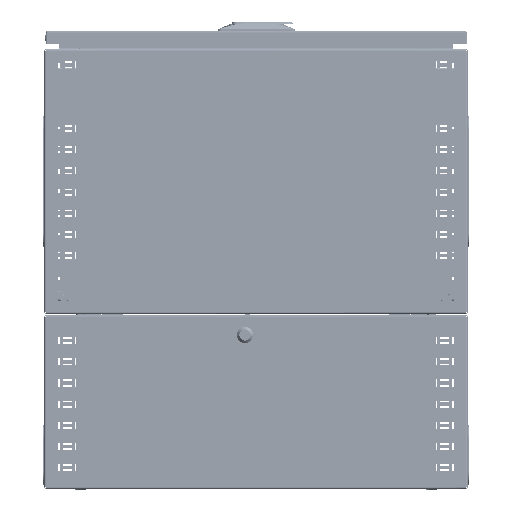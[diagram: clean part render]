
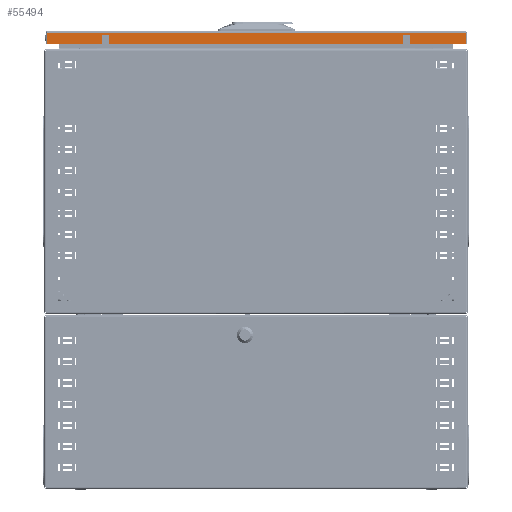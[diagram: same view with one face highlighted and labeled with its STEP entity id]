
A CAD part, left-side view. The second image highlights one B-rep face of the part: STEP entity #55494.
In plain terms, the highlighted planar face has unit normal (-1, 0, 0) as drawn and (1, 0, 0) by its records, which use the part's own axes.
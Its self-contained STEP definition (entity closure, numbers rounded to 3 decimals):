
#7680 = VECTOR ( 'NONE', #111924, 1000. ) ;
#15396 = EDGE_CURVE ( 'NONE', #34369, #58733, #89280, .T. ) ;
#16908 = CARTESIAN_POINT ( 'NONE',  ( 298.5, 296.4, 18.5 ) ) ;
#20111 = DIRECTION ( 'NONE',  ( 0., 0., 1. ) ) ;
#24152 = CARTESIAN_POINT ( 'NONE',  ( 298.5, -296.4, 18.5 ) ) ;
#32321 = CARTESIAN_POINT ( 'NONE',  ( 298.5, 296.4, 2.1 ) ) ;
#34261 = VECTOR ( 'NONE', #140489, 1000. ) ;
#34369 = VERTEX_POINT ( 'NONE', #112920 ) ;
#38331 = LINE ( 'NONE', #47693, #7680 ) ;
#47693 = CARTESIAN_POINT ( 'NONE',  ( 298.5, -296.4, 2.1 ) ) ;
#49368 = FACE_OUTER_BOUND ( 'NONE', #118556, .T. ) ;
#50441 = DIRECTION ( 'NONE',  ( 0., -1., 0. ) ) ;
#51463 = ORIENTED_EDGE ( 'NONE', *, *, #147562, .T. ) ;
#54921 = EDGE_CURVE ( 'NONE', #61131, #162998, #38331, .T. ) ;
#55494 = ADVANCED_FACE ( 'NONE', ( #49368 ), #85312, .F. ) ;
#55773 = CARTESIAN_POINT ( 'NONE',  ( 298.5, -296.4, 2.1 ) ) ;
#58733 = VERTEX_POINT ( 'NONE', #94843 ) ;
#58933 = CARTESIAN_POINT ( 'NONE',  ( 298.5, -296.4, 18.5 ) ) ;
#59452 = VECTOR ( 'NONE', #147463, 1000. ) ;
#61131 = VERTEX_POINT ( 'NONE', #32321 ) ;
#61870 = CARTESIAN_POINT ( 'NONE',  ( 298.5, -296.4, 1.5 ) ) ;
#63764 = ORIENTED_EDGE ( 'NONE', *, *, #15396, .T. ) ;
#64879 = LINE ( 'NONE', #61870, #34261 ) ;
#85312 = PLANE ( 'NONE',  #95151 ) ;
#89280 = LINE ( 'NONE', #24152, #154931 ) ;
#93257 = ORIENTED_EDGE ( 'NONE', *, *, #109702, .T. ) ;
#94735 = ORIENTED_EDGE ( 'NONE', *, *, #54921, .F. ) ;
#94843 = CARTESIAN_POINT ( 'NONE',  ( 298.5, -296.4, 18.5 ) ) ;
#95151 = AXIS2_PLACEMENT_3D ( 'NONE', #58933, #98521, #20111 ) ;
#98521 = DIRECTION ( 'NONE',  ( -1., 0., 0. ) ) ;
#109702 = EDGE_CURVE ( 'NONE', #61131, #34369, #159989, .T. ) ;
#111924 = DIRECTION ( 'NONE',  ( 0., -1., 0. ) ) ;
#112920 = CARTESIAN_POINT ( 'NONE',  ( 298.5, 296.4, 18.5 ) ) ;
#118556 = EDGE_LOOP ( 'NONE', ( #94735, #93257, #63764, #51463 ) ) ;
#140489 = DIRECTION ( 'NONE',  ( 0., 0., -1. ) ) ;
#147463 = DIRECTION ( 'NONE',  ( 0., 0., 1. ) ) ;
#147562 = EDGE_CURVE ( 'NONE', #58733, #162998, #64879, .T. ) ;
#154931 = VECTOR ( 'NONE', #50441, 1000. ) ;
#159989 = LINE ( 'NONE', #16908, #59452 ) ;
#162998 = VERTEX_POINT ( 'NONE', #55773 ) ;
